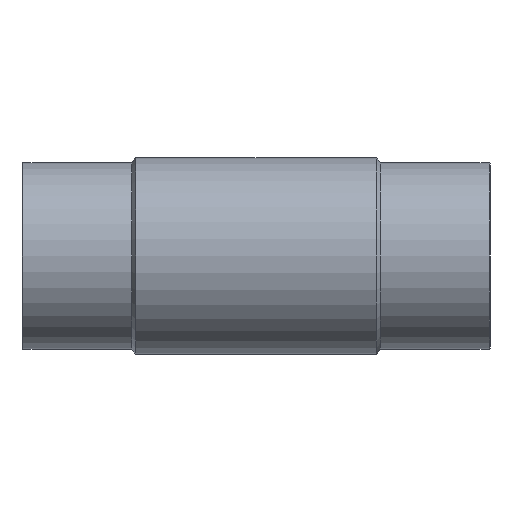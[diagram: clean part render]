
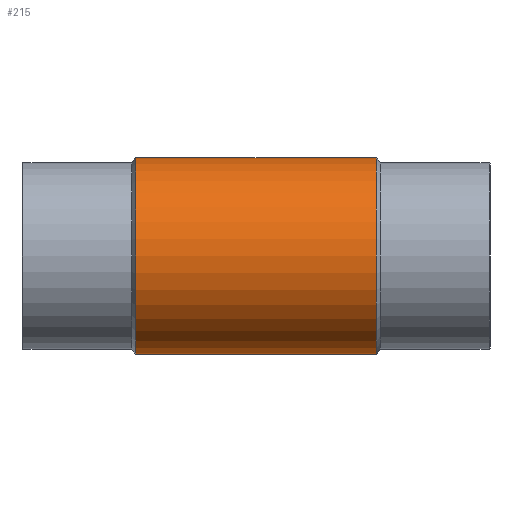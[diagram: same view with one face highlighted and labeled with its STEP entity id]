
A CAD part, front view. The second image highlights one B-rep face of the part: STEP entity #215.
In plain terms, the highlighted cylindrical face has radius 105.5 mm (diameter 211 mm), a full revolution.
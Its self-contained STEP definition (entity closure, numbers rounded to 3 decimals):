
#33=CIRCLE('',#250,105.5);
#35=CIRCLE('',#255,105.5);
#52=ORIENTED_EDGE('',*,*,#94,.T.);
#53=ORIENTED_EDGE('',*,*,#95,.T.);
#54=ORIENTED_EDGE('',*,*,#96,.F.);
#55=ORIENTED_EDGE('',*,*,#92,.T.);
#92=EDGE_CURVE('',#113,#113,#33,.T.);
#94=EDGE_CURVE('',#115,#116,#130,.T.);
#95=EDGE_CURVE('',#116,#115,#131,.F.);
#96=EDGE_CURVE('',#117,#117,#35,.T.);
#113=VERTEX_POINT('',#369);
#115=VERTEX_POINT('',#374);
#116=VERTEX_POINT('',#375);
#117=VERTEX_POINT('',#378);
#130=ELLIPSE('',#253,149.908,105.5);
#131=ELLIPSE('',#254,149.908,105.5);
#139=EDGE_LOOP('',(#52,#53));
#140=EDGE_LOOP('',(#54));
#141=EDGE_LOOP('',(#55));
#175=FACE_BOUND('',#139,.T.);
#176=FACE_BOUND('',#140,.T.);
#177=FACE_BOUND('',#141,.T.);
#207=CYLINDRICAL_SURFACE('',#252,105.5);
#215=ADVANCED_FACE('',(#175,#176,#177),#207,.T.);
#250=AXIS2_PLACEMENT_3D('',#368,#295,#296);
#252=AXIS2_PLACEMENT_3D('',#372,#299,#300);
#253=AXIS2_PLACEMENT_3D('',#373,#301,#302);
#254=AXIS2_PLACEMENT_3D('',#376,#303,#304);
#255=AXIS2_PLACEMENT_3D('',#377,#305,#306);
#295=DIRECTION('',(-1.,0.,0.));
#296=DIRECTION('',(0.,0.,1.));
#299=DIRECTION('',(-1.,0.,0.));
#300=DIRECTION('',(0.,0.,1.));
#301=DIRECTION('',(0.704,-0.71,0.));
#302=DIRECTION('',(-0.71,-0.704,0.));
#303=DIRECTION('',(0.704,0.71,0.));
#304=DIRECTION('',(-0.71,0.704,0.));
#305=DIRECTION('',(-1.,0.,0.));
#306=DIRECTION('',(0.,0.,1.));
#368=CARTESIAN_POINT('',(129.5,0.,0.));
#369=CARTESIAN_POINT('',(129.5,0.,105.5));
#372=CARTESIAN_POINT('',(-60.,0.,0.));
#373=CARTESIAN_POINT('',(0.,0.,0.));
#374=CARTESIAN_POINT('',(0.,0.,-105.5));
#375=CARTESIAN_POINT('',(0.,0.,105.5));
#376=CARTESIAN_POINT('',(0.,0.,0.));
#377=CARTESIAN_POINT('',(-129.5,0.,0.));
#378=CARTESIAN_POINT('',(-129.5,0.,105.5));
